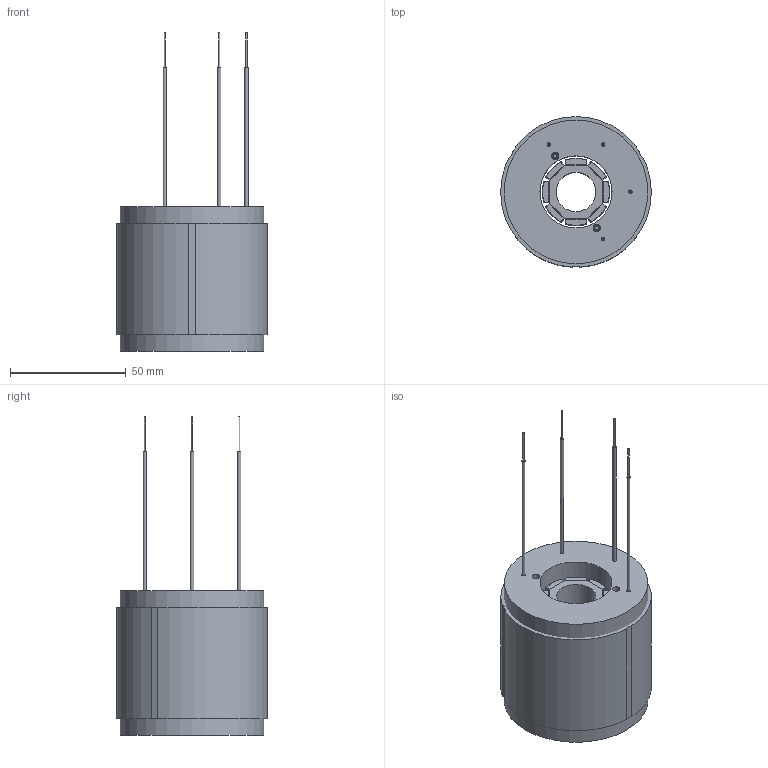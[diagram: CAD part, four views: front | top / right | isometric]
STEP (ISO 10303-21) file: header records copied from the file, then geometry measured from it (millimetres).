
FILE_DESCRIPTION(/* description */ ('Torque_QTR_65_60_Y_Kit_CAD_190315.stp'),/* implementation_level */ '2;1');
FILE_NAME(/* name */ 'Torque_QTR_65_60_Y_Kit_CAD_190315',/* time_stamp */ '2019-03-15T14:08:54+01:00',/* author */ ('Tecnotion'),/* organization */ ('Tecnotion'),/* preprocessor_version */ 'ST-DEVELOPER v16.7',/* originating_system */ 'DEX',/* authorisation */ $);
FILE_SCHEMA (('AUTOMOTIVE_DESIGN {1 0 10303 214 3 1 1}'));
Length unit declared in the file: millimetre
Products named in the file (2): 1083953_190314
Assembly tree (1 placements, depth 2):
  1083953_190314
    1083953_190314
Bounding box: 64.98 x 64.96 x 137.3 mm (x, y, z)
Surface area: 43632.3 mm2 (no closed solid volume)
Topology: 0 solids, 17 shells, 251 faces, 898 edges, 624 vertices
Faces by surface type: plane 114, cylinder 66, bspline 29, sphere 24, torus 16, cone 2
Full cylindrical faces by diameter (mm): 0.6 x4, 1.5 x6, 3.2 x2, 17 x1, 31.1 x1, 62 x1
Entity records: 11478 total; most frequent: CARTESIAN_POINT 4085, DIRECTION 1453, ORIENTED_EDGE 1190, EDGE_CURVE 855, VERTEX_POINT 624, LINE 541, VECTOR 541, AXIS2_PLACEMENT_3D 456
